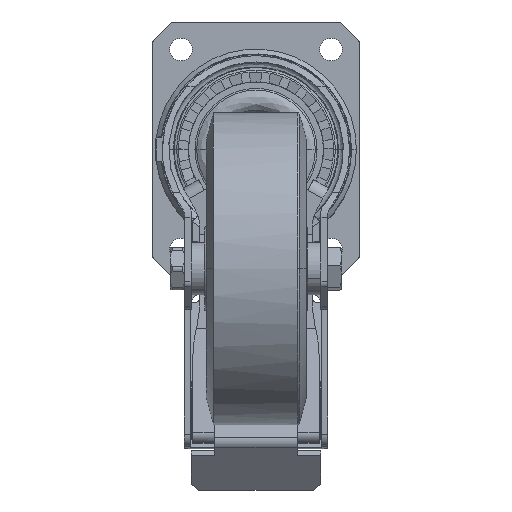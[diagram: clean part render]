
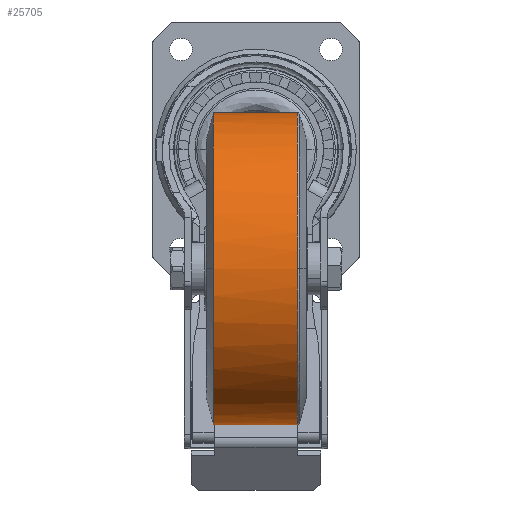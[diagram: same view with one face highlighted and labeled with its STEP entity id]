
A CAD part, front view. The second image highlights one B-rep face of the part: STEP entity #25705.
In plain terms, the highlighted cylindrical face has radius 62.5 mm (diameter 125 mm), a partial arc.
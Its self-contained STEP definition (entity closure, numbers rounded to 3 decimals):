
#740 = CARTESIAN_POINT ( 'NONE',  ( -58.859, -91.73, 5.418 ) ) ;
#1997 = CARTESIAN_POINT ( 'NONE',  ( -58.859, -67.354, -48.367 ) ) ;
#3052 = AXIS2_PLACEMENT_3D ( 'NONE', #9563, #20251, #41527 ) ;
#3998 = CARTESIAN_POINT ( 'NONE',  ( -58.859, -29.23, 63.828 ) ) ;
#4165 = CARTESIAN_POINT ( 'NONE',  ( -58.859, -29.23, 63.828 ) ) ;
#5420 = CARTESIAN_POINT ( 'NONE',  ( -58.859, -37.411, -60.77 ) ) ;
#5569 = CARTESIAN_POINT ( 'NONE',  ( -58.859, -76.316, -39.974 ) ) ;
#6035 = CARTESIAN_POINT ( 'NONE',  ( -58.859, -29.23, -61.172 ) ) ;
#6239 = EDGE_CURVE ( 'NONE', #19699, #28315, #41423, .T. ) ;
#6298 = VERTEX_POINT ( 'NONE', #34124 ) ;
#6422 = DIRECTION ( 'NONE',  ( 1., 0., 0. ) ) ;
#7063 = LINE ( 'NONE', #30227, #23689 ) ;
#9155 = CARTESIAN_POINT ( 'NONE',  ( -58.859, -83.469, -29.994 ) ) ;
#9563 = CARTESIAN_POINT ( 'NONE',  ( -58.859, -29.23, 1.328 ) ) ;
#11329 = CARTESIAN_POINT ( 'NONE',  ( -58.859, -41.501, 63.022 ) ) ;
#12642 = EDGE_CURVE ( 'NONE', #6298, #19773, #18384, .T. ) ;
#12728 = CARTESIAN_POINT ( 'NONE',  ( -58.859, -88.537, -18.811 ) ) ;
#13519 = EDGE_LOOP ( 'NONE', ( #25606, #42013, #14766, #35823, #21875 ) ) ;
#13856 = CARTESIAN_POINT ( 'NONE',  ( -58.859, -91.73, 1.328 ) ) ;
#14450 = LINE ( 'NONE', #44873, #41651 ) ;
#14766 = ORIENTED_EDGE ( 'NONE', *, *, #33445, .F. ) ;
#14889 = CARTESIAN_POINT ( 'NONE',  ( -58.859, -64.177, 53.629 ) ) ;
#14930 = EDGE_CURVE ( 'NONE', #19699, #19773, #14450, .T. ) ;
#16307 = CARTESIAN_POINT ( 'NONE',  ( -58.859, -91.327, -6.854 ) ) ;
#16333 = CYLINDRICAL_SURFACE ( 'NONE', #3052, 62.5 ) ;
#18384 = CIRCLE ( 'NONE', #29377, 62.5 ) ;
#18476 = CARTESIAN_POINT ( 'NONE',  ( -58.859, -81.531, 36.275 ) ) ;
#19699 = VERTEX_POINT ( 'NONE', #6035 ) ;
#19716 = CARTESIAN_POINT ( 'NONE',  ( -58.859, -49.368, -57.98 ) ) ;
#19773 = VERTEX_POINT ( 'NONE', #27431 ) ;
#19871 = CARTESIAN_POINT ( 'NONE',  ( -58.859, -91.73, 1.328 ) ) ;
#20058 = DIRECTION ( 'NONE',  ( -1., 0., 0. ) ) ;
#20251 = DIRECTION ( 'NONE',  ( -1., 0., 0. ) ) ;
#21875 = ORIENTED_EDGE ( 'NONE', *, *, #12642, .T. ) ;
#22001 = CARTESIAN_POINT ( 'NONE',  ( -58.859, -90.924, 13.599 ) ) ;
#22880 = VERTEX_POINT ( 'NONE', #4165 ) ;
#23112 = CARTESIAN_POINT ( 'NONE',  ( -58.859, -33.32, -61.172 ) ) ;
#23265 = CARTESIAN_POINT ( 'NONE',  ( -58.859, -60.552, -52.912 ) ) ;
#23689 = VECTOR ( 'NONE', #33809, 1000. ) ;
#25559 = CARTESIAN_POINT ( 'NONE',  ( -58.859, -91.73, 1.328 ) ) ;
#25606 = ORIENTED_EDGE ( 'NONE', *, *, #14930, .F. ) ;
#25705 = ADVANCED_FACE ( 'NONE', ( #35161 ), #16333, .T. ) ;
#26828 = CARTESIAN_POINT ( 'NONE',  ( -58.859, -70.531, -45.759 ) ) ;
#27431 = CARTESIAN_POINT ( 'NONE',  ( -92.484, -29.23, -61.172 ) ) ;
#27661 = CARTESIAN_POINT ( 'NONE',  ( -92.484, -29.23, 1.328 ) ) ;
#28315 = VERTEX_POINT ( 'NONE', #13856 ) ;
#29377 = AXIS2_PLACEMENT_3D ( 'NONE', #27661, #6422, #31247 ) ;
#30227 = CARTESIAN_POINT ( 'NONE',  ( -58.859, -29.23, 63.828 ) ) ;
#30394 = CARTESIAN_POINT ( 'NONE',  ( -58.859, -78.924, -36.797 ) ) ;
#31247 = DIRECTION ( 'NONE',  ( 0., 0., 1. ) ) ;
#33445 = EDGE_CURVE ( 'NONE', #22880, #28315, #36746, .T. ) ;
#33809 = DIRECTION ( 'NONE',  ( -1., 0., 0. ) ) ;
#33979 = CARTESIAN_POINT ( 'NONE',  ( -58.859, -85.407, -26.369 ) ) ;
#34124 = CARTESIAN_POINT ( 'NONE',  ( -92.484, -29.23, 63.828 ) ) ;
#35161 = FACE_OUTER_BOUND ( 'NONE', #13519, .T. ) ;
#35823 = ORIENTED_EDGE ( 'NONE', *, *, #42487, .T. ) ;
#35964 = CARTESIAN_POINT ( 'NONE',  ( -58.859, -33.32, 63.827 ) ) ;
#36126 = CARTESIAN_POINT ( 'NONE',  ( -58.859, -53.301, 59.442 ) ) ;
#36746 = B_SPLINE_CURVE_WITH_KNOTS ( 'NONE', 3,
 ( #3998, #35964, #11329, #36126, #14889, #39704, #18476, #43286, #22001, #740, #25559 ),
 .UNSPECIFIED., .F., .F.,
 ( 4, 1, 1, 1, 1, 1, 1, 1, 4 ),
 ( 0., 0.125, 0.25, 0.375, 0.5, 0.625, 0.75, 0.875, 1. ),
 .UNSPECIFIED. ) ;
#37398 = CARTESIAN_POINT ( 'NONE',  ( -58.859, -29.23, -61.172 ) ) ;
#37546 = CARTESIAN_POINT ( 'NONE',  ( -58.859, -89.731, -14.878 ) ) ;
#39704 = CARTESIAN_POINT ( 'NONE',  ( -58.859, -73.709, 45.807 ) ) ;
#40967 = CARTESIAN_POINT ( 'NONE',  ( -58.859, -45.435, -59.173 ) ) ;
#41130 = CARTESIAN_POINT ( 'NONE',  ( -58.859, -91.73, -2.763 ) ) ;
#41423 = B_SPLINE_CURVE_WITH_KNOTS ( 'NONE', 3,
 ( #37398, #23112, #5420, #40967, #19716, #44546, #23265, #1997, #26828, #5569, #30394, #9155, #33979, #12728, #37546, #16307, #41130, #19871 ),
 .UNSPECIFIED., .F., .F.,
 ( 4, 2, 2, 2, 2, 2, 2, 2, 4 ),
 ( 0., 0.125, 0.25, 0.375, 0.5, 0.625, 0.75, 0.875, 1. ),
 .UNSPECIFIED. ) ;
#41527 = DIRECTION ( 'NONE',  ( 0., 0., 1. ) ) ;
#41651 = VECTOR ( 'NONE', #20058, 1000. ) ;
#42013 = ORIENTED_EDGE ( 'NONE', *, *, #6239, .T. ) ;
#42487 = EDGE_CURVE ( 'NONE', #22880, #6298, #7063, .T. ) ;
#43286 = CARTESIAN_POINT ( 'NONE',  ( -58.859, -87.344, 25.399 ) ) ;
#44546 = CARTESIAN_POINT ( 'NONE',  ( -58.859, -56.927, -54.849 ) ) ;
#44873 = CARTESIAN_POINT ( 'NONE',  ( -58.859, -29.23, -61.172 ) ) ;
